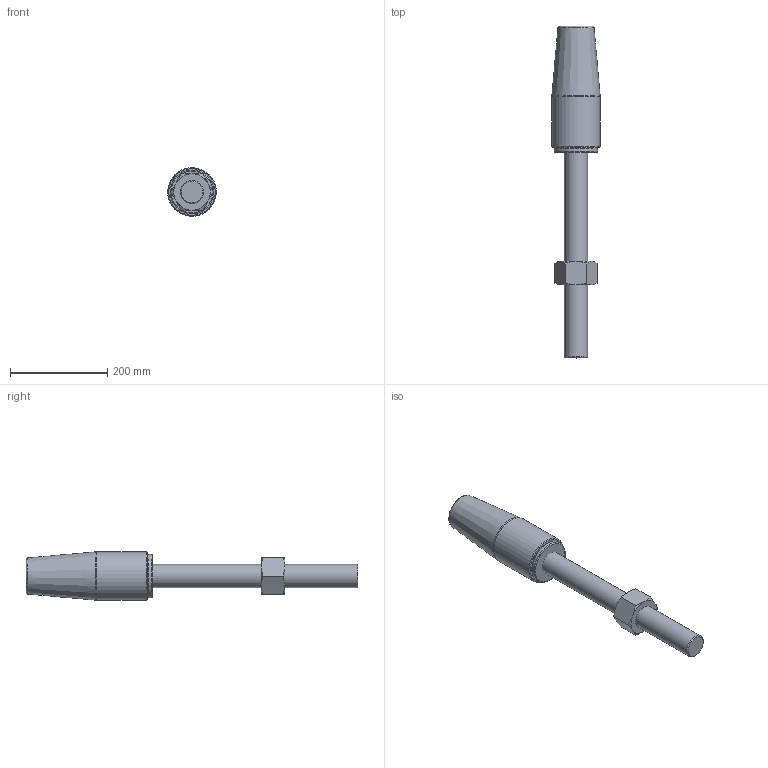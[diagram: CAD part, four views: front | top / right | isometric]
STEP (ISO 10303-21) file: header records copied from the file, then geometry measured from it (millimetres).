
FILE_DESCRIPTION(/* description */ (''),/* implementation_level */ '2;1');
FILE_NAME(/* name */ 'D:\Clienti\Redaelli (inventor)\CYB\STEP\Arrangement\CYB032 52 061 0.stp',/* time_stamp */ '2021-05-08T14:32:16+02:00',/* author */ ('fabri'),/* organization */ (''),/* preprocessor_version */ 'ST-DEVELOPER v16.13',/* originating_system */ 'Autodesk Inventor 2018',/* authorisation */ '');
FILE_SCHEMA (('AUTOMOTIVE_DESIGN { 1 0 10303 214 3 1 1 }'));
Length unit declared in the file: millimetre
Products named in the file (5): CYB012-52-061-0; RNT032 41 051 0_ROD; UNI 5587 - M48 x 3; CCY021-51-061-0_BUSH; CCY021-51-061-0
Assembly tree (4 placements, depth 2):
  CYB012-52-061-0
    RNT032 41 051 0_ROD
    UNI 5587 - M48 x 3
    CCY021-51-061-0_BUSH
    CCY021-51-061-0
Bounding box: 99.67 x 684 x 99.67 mm (x, y, z)
Volume: 2962738 mm3; surface area: 226241 mm2
Topology: 4 solids, 4 shells, 740 faces, 2001 edges, 1327 vertices
Faces by surface type: bspline 404, plane 306, cone 19, cylinder 7, torus 4
Full cylindrical faces by diameter (mm): 44.752 x2, 48 x1, 66 x1, 72 x1, 90 x1, 100 x1
Entity records: 25257 total; most frequent: CARTESIAN_POINT 9370, ORIENTED_EDGE 3962, EDGE_CURVE 1981, DIRECTION 1879, VERTEX_POINT 1325, LINE 1111, VECTOR 1111, EDGE_LOOP 820
